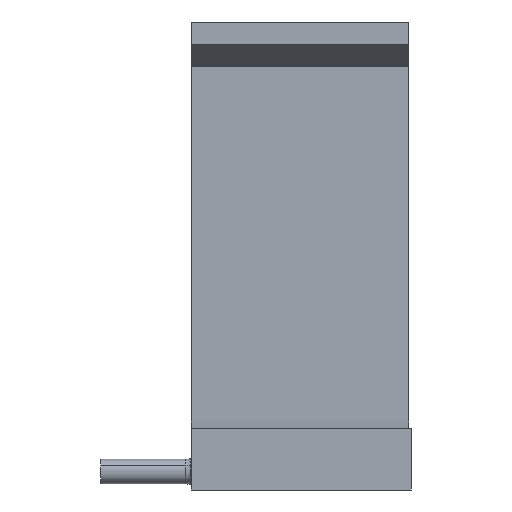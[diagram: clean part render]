
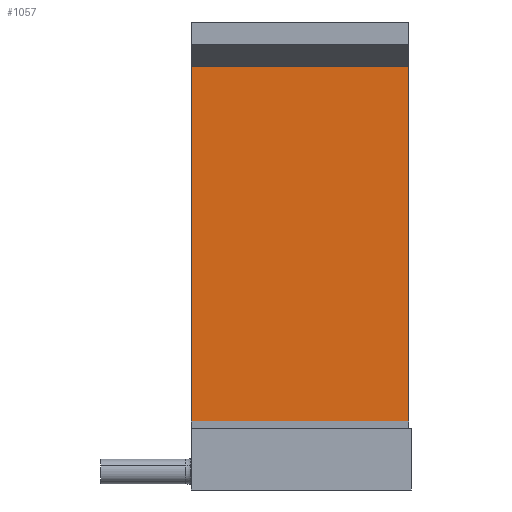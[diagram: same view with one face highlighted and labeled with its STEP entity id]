
A CAD part, left-side view. The second image highlights one B-rep face of the part: STEP entity #1057.
In plain terms, the highlighted planar face has unit normal (-1, 0, 0) as drawn and (1, 0, 0) by its records, which use the part's own axes.
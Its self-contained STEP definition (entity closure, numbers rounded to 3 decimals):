
#7 = EDGE_CURVE ( 'NONE', #3125, #1710, #137, .T. ) ;
#137 = LINE ( 'NONE', #3456, #1481 ) ;
#176 = LINE ( 'NONE', #2375, #1015 ) ;
#193 = ORIENTED_EDGE ( 'NONE', *, *, #7, .F. ) ;
#264 = DIRECTION ( 'NONE',  ( -1., 0., 0. ) ) ;
#574 = DIRECTION ( 'NONE',  ( 0., 1., 0. ) ) ;
#733 = ORIENTED_EDGE ( 'NONE', *, *, #2595, .T. ) ;
#762 = ORIENTED_EDGE ( 'NONE', *, *, #2899, .T. ) ;
#901 = VECTOR ( 'NONE', #574, 1000. ) ;
#929 = VERTEX_POINT ( 'NONE', #2130 ) ;
#969 = LINE ( 'NONE', #1788, #2976 ) ;
#1015 = VECTOR ( 'NONE', #3472, 1000. ) ;
#1057 = ADVANCED_FACE ( 'NONE', ( #3041 ), #2191, .F. ) ;
#1332 = CARTESIAN_POINT ( 'NONE',  ( 21.35, 154.11, 0. ) ) ;
#1480 = CARTESIAN_POINT ( 'NONE',  ( 21.35, 17.11, 84. ) ) ;
#1481 = VECTOR ( 'NONE', #2898, 1000. ) ;
#1660 = CARTESIAN_POINT ( 'NONE',  ( 21.35, 17.11, 84. ) ) ;
#1710 = VERTEX_POINT ( 'NONE', #1332 ) ;
#1788 = CARTESIAN_POINT ( 'NONE',  ( 21.35, 17.11, 84. ) ) ;
#2075 = ORIENTED_EDGE ( 'NONE', *, *, #3450, .F. ) ;
#2130 = CARTESIAN_POINT ( 'NONE',  ( 21.35, 17.11, 0. ) ) ;
#2191 = PLANE ( 'NONE',  #3522 ) ;
#2241 = VERTEX_POINT ( 'NONE', #1480 ) ;
#2362 = DIRECTION ( 'NONE',  ( 0., 1., 0. ) ) ;
#2375 = CARTESIAN_POINT ( 'NONE',  ( 21.35, 17.11, 84. ) ) ;
#2519 = EDGE_LOOP ( 'NONE', ( #733, #193, #2075, #762 ) ) ;
#2595 = EDGE_CURVE ( 'NONE', #929, #1710, #3044, .T. ) ;
#2898 = DIRECTION ( 'NONE',  ( 0., 0., -1. ) ) ;
#2899 = EDGE_CURVE ( 'NONE', #2241, #929, #176, .T. ) ;
#2976 = VECTOR ( 'NONE', #2362, 1000. ) ;
#3041 = FACE_OUTER_BOUND ( 'NONE', #2519, .T. ) ;
#3043 = CARTESIAN_POINT ( 'NONE',  ( 21.35, 154.11, 84. ) ) ;
#3044 = LINE ( 'NONE', #3058, #901 ) ;
#3055 = DIRECTION ( 'NONE',  ( 0., 0., 1. ) ) ;
#3058 = CARTESIAN_POINT ( 'NONE',  ( 21.35, 17.11, 0. ) ) ;
#3125 = VERTEX_POINT ( 'NONE', #3043 ) ;
#3450 = EDGE_CURVE ( 'NONE', #2241, #3125, #969, .T. ) ;
#3456 = CARTESIAN_POINT ( 'NONE',  ( 21.35, 154.11, 84. ) ) ;
#3472 = DIRECTION ( 'NONE',  ( 0., 0., -1. ) ) ;
#3522 = AXIS2_PLACEMENT_3D ( 'NONE', #1660, #264, #3055 ) ;
